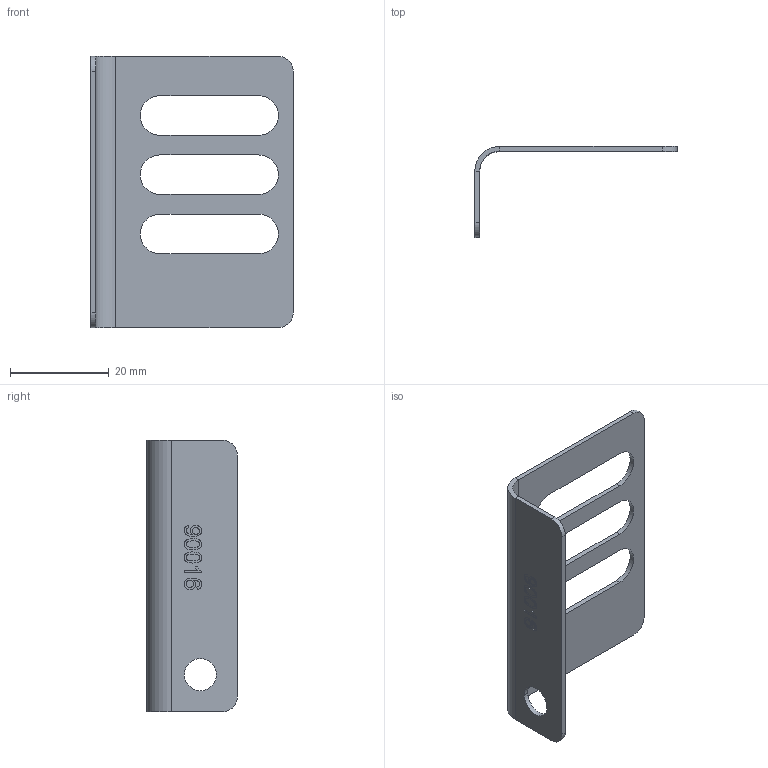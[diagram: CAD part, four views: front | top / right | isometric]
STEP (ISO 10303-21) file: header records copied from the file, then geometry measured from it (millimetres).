
FILE_DESCRIPTION (( 'STEP AP214' ), '1' );
FILE_NAME ('10117V000_Zugentlastungsblech_Index_1.STEP', '2014-04-28T12:45:20', ( 'Admin' ), ( '' ), 'SwSTEP 2.0', 'SolidWorks 2013', '' );
FILE_SCHEMA (( 'AUTOMOTIVE_DESIGN' ));
Length unit declared in the file: millimetre
Products named in the file (1): 10117V000_Zugentlastungsblech_Index_1
Bounding box: 41 x 18.4 x 55 mm (x, y, z)
Volume: 2432.4 mm3; surface area: 5309.7 mm2
Topology: 1 solids, 1 shells, 98 faces, 253 edges, 166 vertices
Faces by surface type: bspline 50, plane 34, cylinder 14
Entity records: 5883 total; most frequent: CARTESIAN_POINT 3760, ORIENTED_EDGE 506, DIRECTION 279, EDGE_CURVE 253, VERTEX_POINT 166, VECTOR 125, LINE 125, EDGE_LOOP 115
